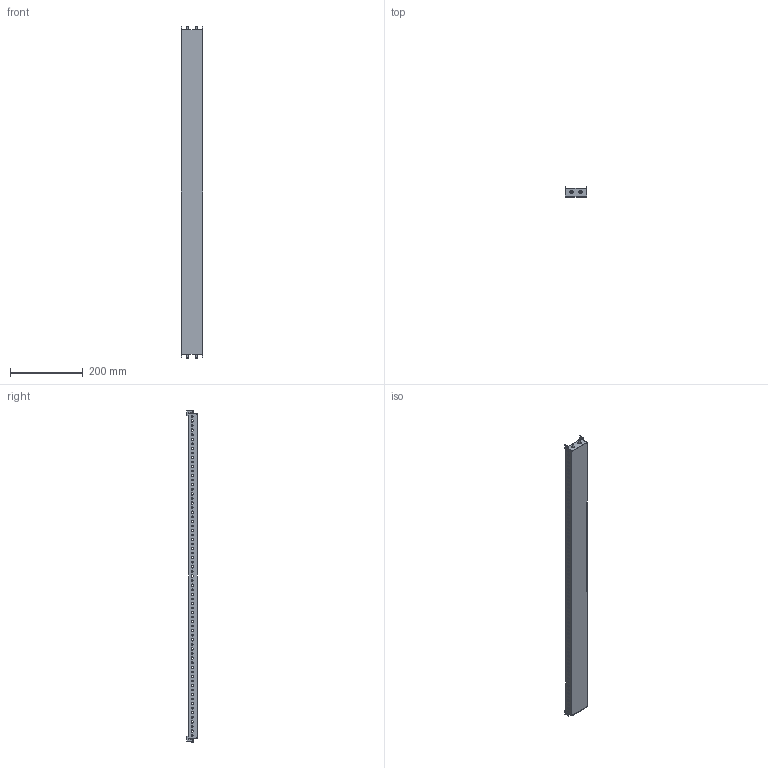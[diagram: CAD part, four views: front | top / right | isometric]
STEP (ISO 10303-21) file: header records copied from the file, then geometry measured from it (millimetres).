
FILE_DESCRIPTION(('Open CASCADE Model'),'2;1');
FILE_NAME('Open CASCADE Shape Model','2025-03-10T09:37:12',('Author'),( 'Open CASCADE'),'Open CASCADE STEP processor 7.8','Open CASCADE 7.8' ,'Unknown');
FILE_SCHEMA(('AUTOMOTIVE_DESIGN { 1 0 10303 214 1 1 1 1 }'));
Length unit declared in the file: millimetre
Products named in the file (3): Compound1; Solid1; Solid2
Assembly tree (5 placements, depth 2):
  Compound1
    Solid1
    Solid2  x4
Bounding box: 60 x 28 x 910 mm (x, y, z)
Volume: 138062.1 mm3; surface area: 190626.3 mm2
Topology: 5 solids, 5 shells, 450 faces, 1256 edges, 812 vertices
Faces by surface type: cylinder 308, plane 94, cone 16, torus 16, bspline 8, sphere 8
Entity records: 13678 total; most frequent: DIRECTION 2470, CARTESIAN_POINT 2431, ORIENTED_EDGE 2208, EDGE_CURVE 1104, AXIS2_PLACEMENT_3D 994, VERTEX_POINT 731, FACE_BOUND 671, EDGE_LOOP 671
